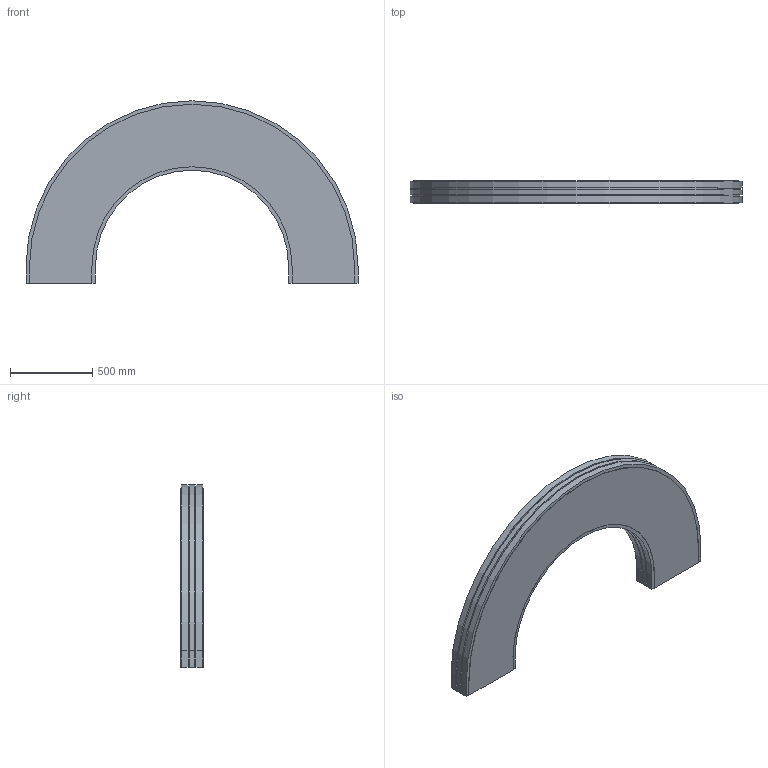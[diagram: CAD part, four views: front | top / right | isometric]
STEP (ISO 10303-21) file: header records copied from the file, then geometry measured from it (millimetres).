
FILE_DESCRIPTION (( 'STEP AP214' ), '1' );
FILE_NAME ('02.150H18.420.N FS-MTC-150 Bocht horizontaal 180°.STEP', '2013-03-29T11:15:36', ( 'Gebruiker' ), ( '' ), 'SwSTEP 2.0', 'SolidWorks 2012', '' );
FILE_SCHEMA (( 'AUTOMOTIVE_DESIGN' ));
Length unit declared in the file: millimetre
Products named in the file (1): 02.150H18.420.N FS-MTC-150 Bocht horizontaal 180°
Bounding box: 2023 x 136 x 1111.5 mm (x, y, z)
Volume: 154504681.7 mm3; surface area: 3386096.6 mm2
Topology: 1 solids, 1 shells, 58 faces, 168 edges, 112 vertices
Faces by surface type: plane 44, cylinder 14
Entity records: 1934 total; most frequent: CARTESIAN_POINT 339, ORIENTED_EDGE 336, DIRECTION 314, EDGE_CURVE 168, LINE 140, VECTOR 140, VERTEX_POINT 112, AXIS2_PLACEMENT_3D 87
